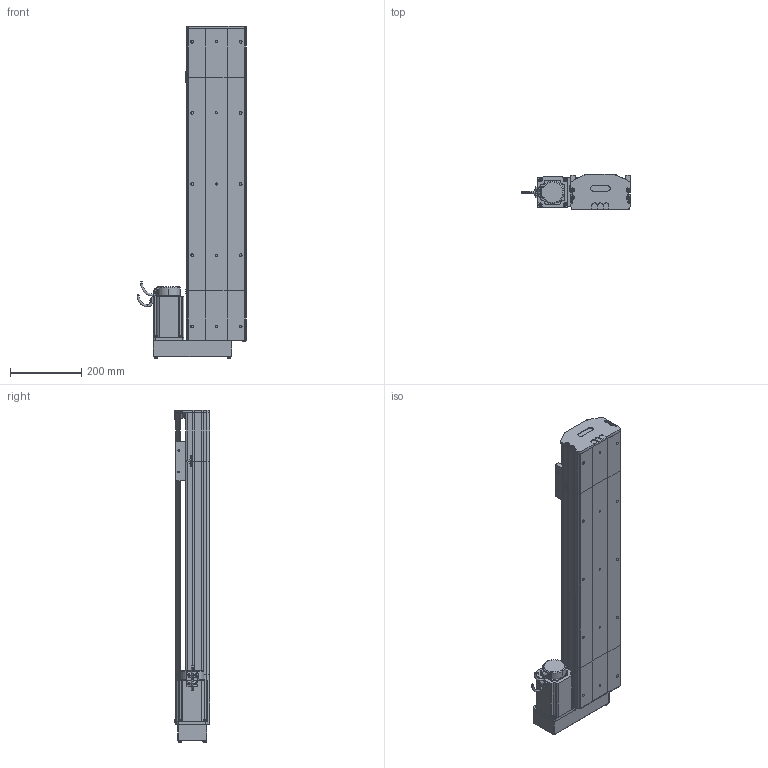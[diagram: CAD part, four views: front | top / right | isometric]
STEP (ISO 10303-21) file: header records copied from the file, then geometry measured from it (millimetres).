
FILE_DESCRIPTION (( 'STEP AP214' ), '1' );
FILE_NAME ('D17 TSN BR S600.STEP', '2010-06-30T07:38:00', ( 'Christophe Gaillard' ), ( 'SGA' ), 'SwSTEP 2.0', 'SolidWorks 2010', '' );
FILE_SCHEMA (( 'AUTOMOTIVE_DESIGN' ));
Length unit declared in the file: millimetre
Products named in the file (33): avant 90BLDC125A-640; Moteur motionking 90BLDC125A-640; guide D17; Chariot D17 TBN; chariot D17 TSN; Cvis M5 L70_Default; vis M5 L12_Default; Conecteur2_Default; codeur 90BLDC125-640; corps 90BLDC125A-640; renvoi BR_Default; Vis M5 L16-2_Default; Conecteur_Default; D17 TSN BR S600; corp D17 600_Default; arbre + rail D17 Course 600 ; course 600 D17_Default; plaque de  bout tail D17_Default; corpl tail D17_Default; Tail D17_Default; couvercle D17 course L600_Default; Arbre+rail tail D17; tete d''axe haut D17; tete d''axe bas D17; vis M5 L25_Default; vis M5 L8 90°_Default; couvercle D17_Default; couvercle D17 head_Default; corpl head D17 BM_Default; head BR_Default; vis M5 L5_Default; Arbre+rail head D17; plaque de  bout BM head D17_Default
Assembly tree (51 placements, depth 4):
  D17 TSN BR S600
    head BR_Default
      vis M5 L5_Default  x2
      Cvis M5 L70_Default  x2
      corpl head D17 BM_Default
      vis M5 L12_Default  x8
      plaque de  bout BM head D17_Default
      Moteur motionking 90BLDC125A-640
        codeur 90BLDC125-640
        avant 90BLDC125A-640
        corps 90BLDC125A-640
        Conecteur2_Default
        Conecteur_Default
      Arbre+rail head D17
      Vis M5 L16-2_Default  x4
      couvercle D17 head_Default
      renvoi BR_Default
    chariot D17 TSN
      Chariot D17 TBN
      guide D17  x2
    course 600 D17_Default
      couvercle D17 course L600_Default
      arbre + rail D17 Course 600 
      corp D17 600_Default
    Tail D17_Default
      tete d''axe haut D17
      vis M5 L12_Default  x4
      tete d''axe bas D17
      vis M5 L25_Default  x2
      vis M5 L8 90°_Default  x2
      Arbre+rail tail D17
      couvercle D17_Default
      plaque de  bout tail D17_Default
      corpl tail D17_Default
Bounding box: 308.95 x 99.7 x 932.7 mm (x, y, z)
Volume: 6556482.4 mm3; surface area: 1642344.3 mm2
Topology: 75 solids, 75 shells, 2117 faces, 5351 edges, 3460 vertices
Faces by surface type: plane 1322, cylinder 534, bspline 136, torus 65, cone 56, sphere 4
Entity records: 70824 total; most frequent: CARTESIAN_POINT 22448, ORIENTED_EDGE 8610, DIRECTION 8034, EDGE_CURVE 4305, VECTOR 3010, LINE 3010, VERTEX_POINT 2826, AXIS2_PLACEMENT_3D 2512
